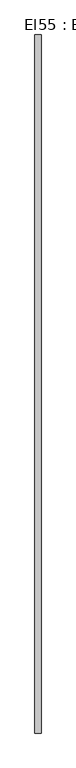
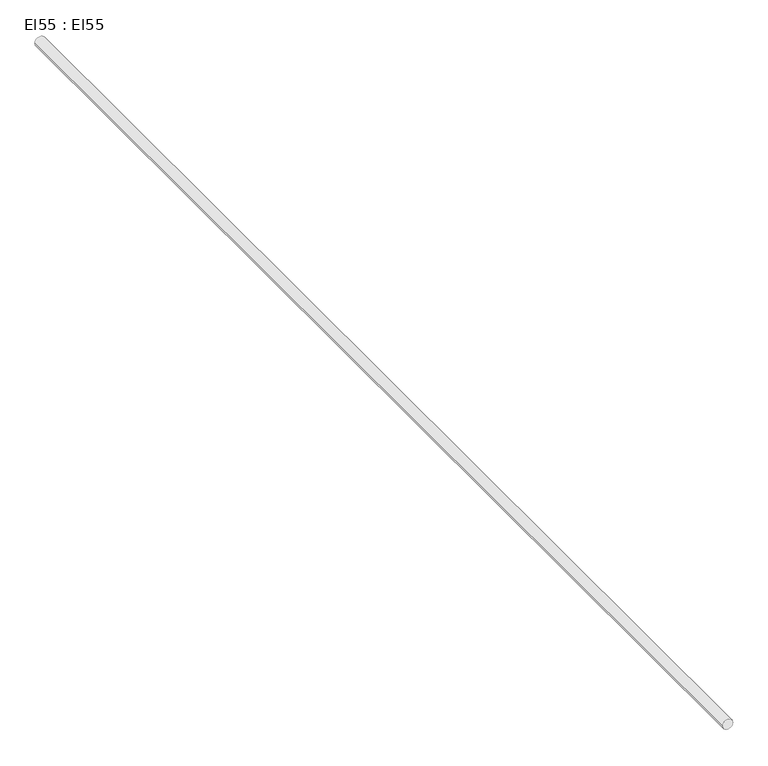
"""IFC4 building model written with IfcOpenShell, lengths in millimetres: cable carrier segment geometry, El55 : El55."""

from ifc_helpers import new_model, si_unit, point, frame, frame_2d, origin, place, context, project, spatial, circle_curve, trimmed, segment, composite_curve, outline, extrude, source, transform, mapped, element, save


def el55_el55_82758e1e(model_context):
    return source(origin(), model_context, "Body", "SweptSolid", [
        extrude(outline(composite_curve([segment(trimmed(circle_curve(frame_2d((2950.0, 13800.4)), 9.5), [point((2950.0, 13790.9))], [point((2950.0, 13809.9))], False, "CARTESIAN"), True, "CONTINUOUS"), segment(trimmed(circle_curve(frame_2d((2950.0, 13800.4)), 9.5), [point((2950.0, 13809.9))], [point((2950.0, 13790.9))], False, "CARTESIAN"), True, "CONTINUOUS")], self_intersect=False)), frame((0.0, 16550.7, 0.0), z_axis=(0.0, 1.0, 0.0), x_axis=(0.0, 0.0, 1.0)), (0.0, 0.0, 1.0), 2155.0),
    ])


if __name__ == "__main__":
    model = new_model("IFC4")
    model_context = context("Model", 3, world=origin())
    ifc_project = project(units=[si_unit("LENGTHUNIT", "METRE", prefix="MILLI")], contexts=[model_context])
    site = spatial("IfcSite", under=ifc_project)
    building = spatial("IfcBuilding", under=site)
    placement = place(None, origin())
    el55_el55_shape = el55_el55_82758e1e(model_context)
    element("IfcCableCarrierSegment", 1, ObjectType="El55 : El55", at=placement, inside=building, context=model_context, shape_type="MappedRepresentation", body=[
        mapped(el55_el55_shape, transform((0.0, 0.0, 0.0), x_axis=(1.0, 0.0, 0.0), y_axis=(0.0, 1.0, 0.0), z_axis=(0.0, 0.0, 1.0))),
    ])
    save(model, "model.ifc")
